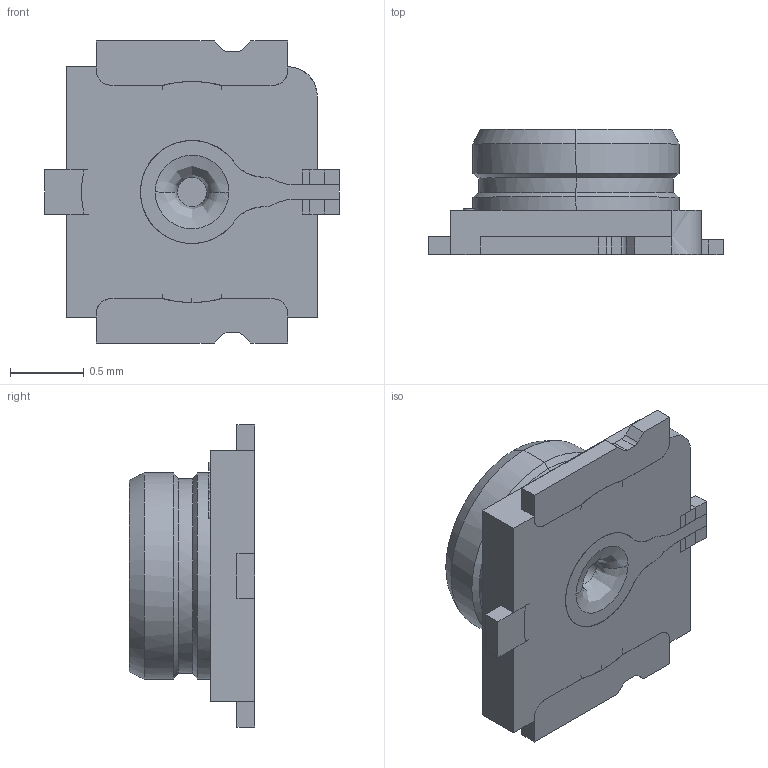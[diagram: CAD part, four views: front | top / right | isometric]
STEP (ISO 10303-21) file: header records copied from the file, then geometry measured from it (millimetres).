
FILE_DESCRIPTION (( 'STEP AP203' ), '1' );
FILE_NAME ('GT-RF3085A-01G.STEP', '2023-04-07T03:03:02', ( '' ), ( '' ), 'SwSTEP 2.0', 'SolidWorks 2023', '' );
FILE_SCHEMA (( 'CONFIG_CONTROL_DESIGN' ));
Length unit declared in the file: millimetre
Products named in the file (1): GT-RF3085A-01G
Bounding box: 2 x 0.85 x 2.05 mm (x, y, z)
Surface area: 22 mm2 (no closed solid volume)
Topology: 0 solids, 119 shells, 397 faces, 1389 edges, 1101 vertices
Faces by surface type: bspline 324, plane 73
Entity records: 18351 total; most frequent: CARTESIAN_POINT 10362, ORIENTED_EDGE 2007, EDGE_CURVE 1389, VERTEX_POINT 1105, B_SPLINE_CURVE_WITH_KNOTS 875, DIRECTION 407, EDGE_LOOP 404, FACE_OUTER_BOUND 397
